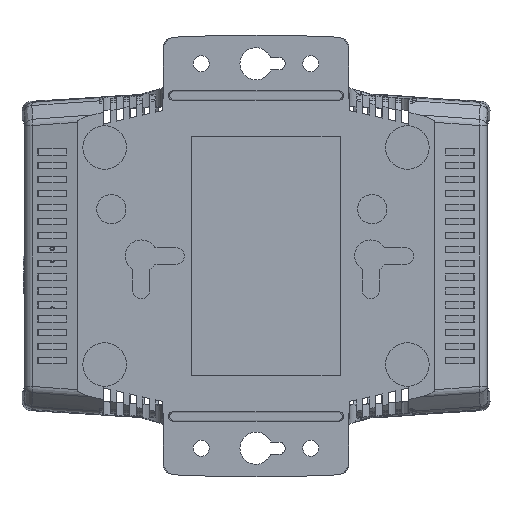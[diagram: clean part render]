
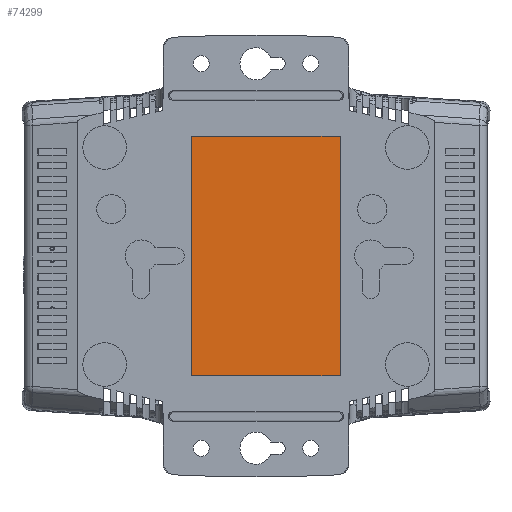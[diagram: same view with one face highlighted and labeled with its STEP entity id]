
A CAD part, front view. The second image highlights one B-rep face of the part: STEP entity #74299.
In plain terms, the highlighted planar face has unit normal (0, -1, 0).
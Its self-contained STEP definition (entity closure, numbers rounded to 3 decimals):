
#5837=LINE('',#121328,#13928);
#5841=LINE('',#121335,#13932);
#5844=LINE('',#121341,#13935);
#5846=LINE('',#121344,#13937);
#13928=VECTOR('',#90789,10.);
#13932=VECTOR('',#90795,10.);
#13935=VECTOR('',#90800,10.);
#13937=VECTOR('',#90804,10.);
#18886=PLANE('',#79079);
#21913=FACE_OUTER_BOUND('',#25886,.T.);
#25886=EDGE_LOOP('',(#59652,#59653,#59654,#59655));
#34586=VERTEX_POINT('',#121325);
#34587=VERTEX_POINT('',#121327);
#34589=VERTEX_POINT('',#121333);
#34591=VERTEX_POINT('',#121339);
#43654=EDGE_CURVE('',#34586,#34587,#5837,.T.);
#43658=EDGE_CURVE('',#34589,#34586,#5841,.T.);
#43661=EDGE_CURVE('',#34591,#34589,#5844,.T.);
#43663=EDGE_CURVE('',#34587,#34591,#5846,.T.);
#59652=ORIENTED_EDGE('',*,*,#43663,.F.);
#59653=ORIENTED_EDGE('',*,*,#43654,.F.);
#59654=ORIENTED_EDGE('',*,*,#43658,.F.);
#59655=ORIENTED_EDGE('',*,*,#43661,.F.);
#74299=ADVANCED_FACE('',(#21913),#18886,.F.);
#79079=AXIS2_PLACEMENT_3D('',#121345,#90805,#90806);
#90789=DIRECTION('',(0.,0.,1.));
#90795=DIRECTION('',(-1.,0.,0.));
#90800=DIRECTION('',(0.,0.,-1.));
#90804=DIRECTION('',(1.,0.,0.));
#90805=DIRECTION('center_axis',(0.,1.,0.));
#90806=DIRECTION('ref_axis',(0.,0.,1.));
#121325=CARTESIAN_POINT('',(-14.134,0.5,-26.1));
#121327=CARTESIAN_POINT('',(-14.134,0.5,26.1));
#121328=CARTESIAN_POINT('',(-14.134,0.5,-26.1));
#121333=CARTESIAN_POINT('',(18.334,0.5,-26.1));
#121335=CARTESIAN_POINT('',(18.334,0.5,-26.1));
#121339=CARTESIAN_POINT('',(18.334,0.5,26.1));
#121341=CARTESIAN_POINT('',(18.334,0.5,26.1));
#121344=CARTESIAN_POINT('',(-14.134,0.5,26.1));
#121345=CARTESIAN_POINT('Origin',(2.1,0.5,0.));
